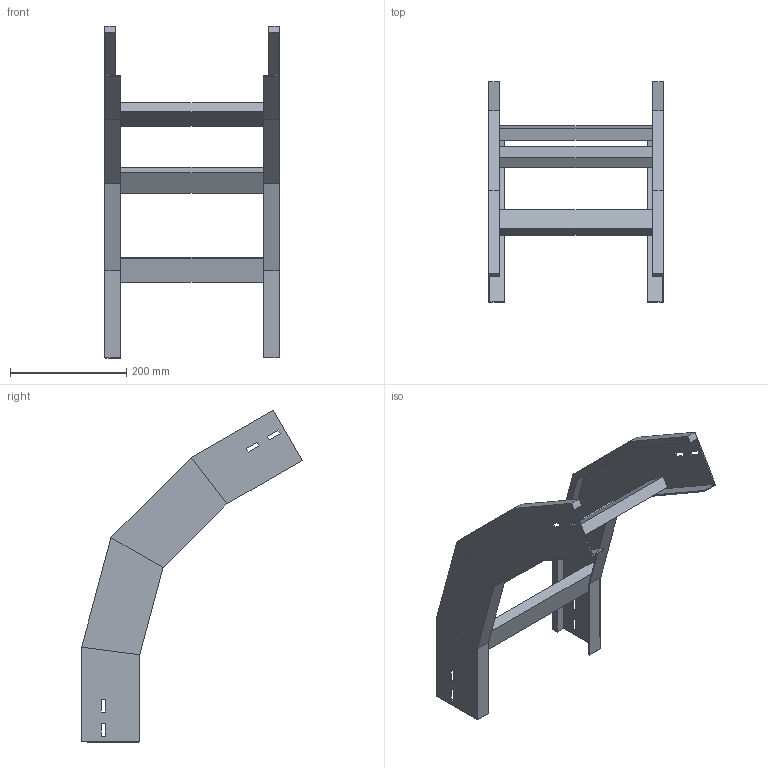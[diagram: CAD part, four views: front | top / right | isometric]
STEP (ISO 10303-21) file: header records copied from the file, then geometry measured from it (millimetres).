
FILE_DESCRIPTION (( 'STEP AP214' ), '1' );
FILE_NAME ('A2_41B3D300.step', '2025-02-21T14:56:34', ( '' ), ( '' ), 'SwSTEP 2.0', 'SolidWorks 2023', '' );
FILE_SCHEMA (( 'AUTOMOTIVE_DESIGN' ));
Length unit declared in the file: millimetre
Products named in the file (3): LONGH.DISCESA_60°_H100_R300; TRAVERSINO_300; A2_41B3D300
Assembly tree (5 placements, depth 2):
  A2_41B3D300
    LONGH.DISCESA_60°_H100_R300  x2
    TRAVERSINO_300  x3
Bounding box: 300 x 379.62 x 570.92 mm (x, y, z)
Volume: 1315764.7 mm3; surface area: 489633.5 mm2
Topology: 5 solids, 5 shells, 118 faces, 276 edges, 168 vertices
Faces by surface type: plane 118
Entity records: 1672 total; most frequent: CARTESIAN_POINT 276, ORIENTED_EDGE 264, DIRECTION 260, VECTOR 132, EDGE_CURVE 132, LINE 132, VERTEX_POINT 80, EDGE_LOOP 64
